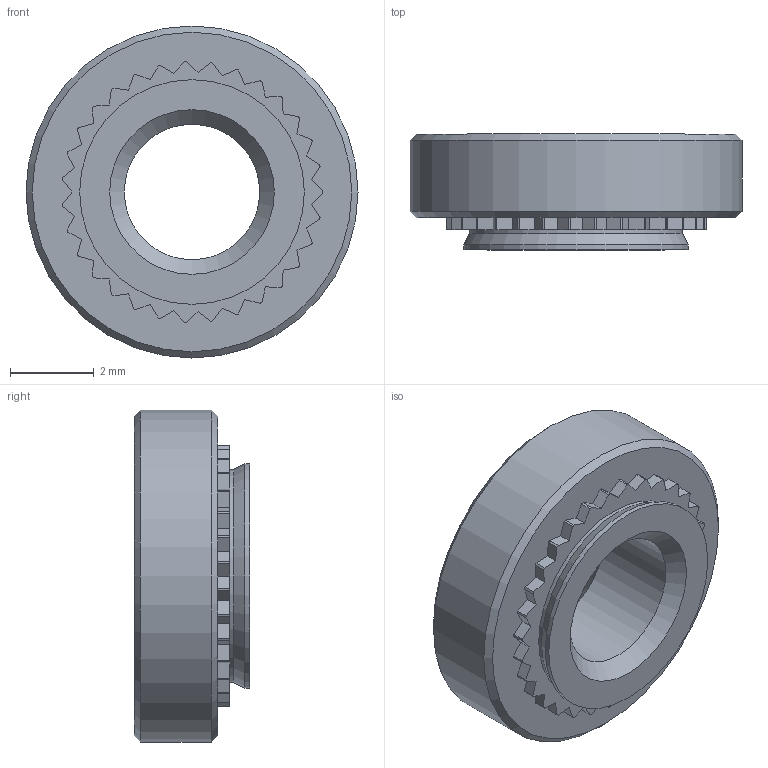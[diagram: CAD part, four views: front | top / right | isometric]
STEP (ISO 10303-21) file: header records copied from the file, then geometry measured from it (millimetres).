
FILE_DESCRIPTION(/* description */ (''),/* implementation_level */ '2;1');
FILE_NAME(/* name */ 'C:\Users\keval.kumar\Desktop\Fastit\Clinch nut\M4\Clinch Nut_M4_0.stp',/* time_stamp */ '2024-03-14T09:36:17+05:00',/* author */ ('keval.kumar'),/* organization */ (''),/* preprocessor_version */ 'ST-DEVELOPER v18.1',/* originating_system */ 'Autodesk Inventor 2022',/* authorisation */ '');
FILE_SCHEMA (('AUTOMOTIVE_DESIGN { 1 0 10303 214 3 1 1 }'));
Length unit declared in the file: millimetre
Products named in the file (1): Clinch Nut_M4_0
Bounding box: 7.95 x 2.77 x 7.95 mm (x, y, z)
Volume: 93.1 mm3; surface area: 170.6 mm2
Topology: 1 solids, 1 shells, 106 faces, 303 edges, 201 vertices
Faces by surface type: plane 66, cylinder 35, cone 5
Full cylindrical faces by diameter (mm): 3.242 x1, 5.1 x1, 5.38 x1, 7.95 x1
Entity records: 3507 total; most frequent: CARTESIAN_POINT 611, ORIENTED_EDGE 606, DIRECTION 594, EDGE_CURVE 303, LINE 226, VECTOR 226, VERTEX_POINT 201, AXIS2_PLACEMENT_3D 184
